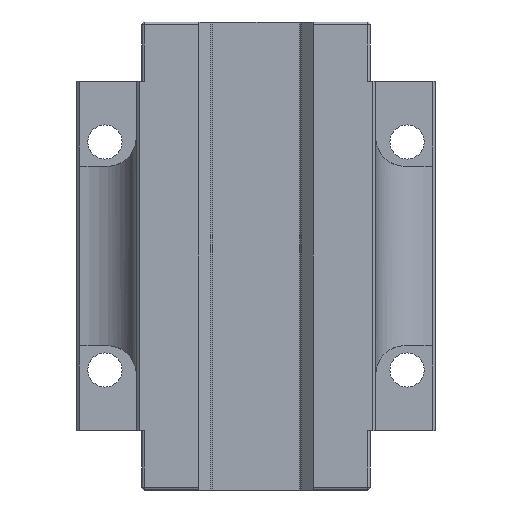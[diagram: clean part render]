
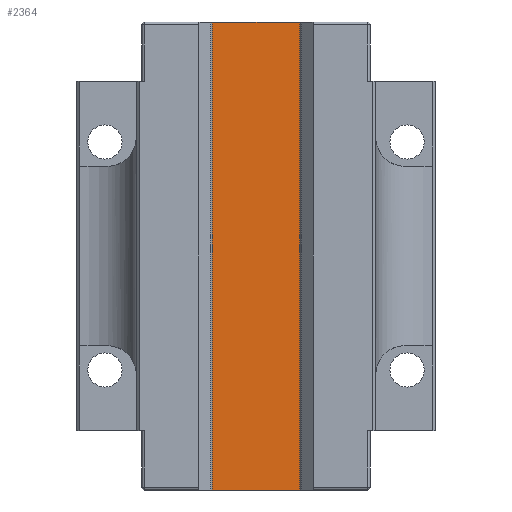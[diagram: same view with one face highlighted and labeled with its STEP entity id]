
A CAD part, front view. The second image highlights one B-rep face of the part: STEP entity #2364.
In plain terms, the highlighted planar face has unit normal (0, -1, 0).
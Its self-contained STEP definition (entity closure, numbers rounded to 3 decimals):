
#51 = DIRECTION ( 'NONE',  ( -1., 0., 0. ) ) ;
#171 = VERTEX_POINT ( 'NONE', #814 ) ;
#291 = CARTESIAN_POINT ( 'NONE',  ( -10., 16.3, -41.05 ) ) ;
#320 = VECTOR ( 'NONE', #51, 1000. ) ;
#352 = EDGE_CURVE ( 'NONE', #356, #2222, #1412, .T. ) ;
#356 = VERTEX_POINT ( 'NONE', #2301 ) ;
#443 = DIRECTION ( 'NONE',  ( 0., 0., -1. ) ) ;
#472 = EDGE_CURVE ( 'NONE', #2208, #356, #928, .T. ) ;
#482 = LINE ( 'NONE', #291, #2317 ) ;
#531 = VECTOR ( 'NONE', #643, 1000. ) ;
#643 = DIRECTION ( 'NONE',  ( 0., 0., 1. ) ) ;
#814 = CARTESIAN_POINT ( 'NONE',  ( 9., 16.3, -41.05 ) ) ;
#928 = LINE ( 'NONE', #1893, #320 ) ;
#954 = EDGE_LOOP ( 'NONE', ( #1046, #2896, #2153, #1164 ) ) ;
#957 = AXIS2_PLACEMENT_3D ( 'NONE', #2097, #1637, #2102 ) ;
#1046 = ORIENTED_EDGE ( 'NONE', *, *, #1990, .F. ) ;
#1164 = ORIENTED_EDGE ( 'NONE', *, *, #352, .T. ) ;
#1354 = EDGE_CURVE ( 'NONE', #171, #2208, #1616, .T. ) ;
#1412 = LINE ( 'NONE', #2099, #1480 ) ;
#1428 = FACE_OUTER_BOUND ( 'NONE', #954, .T. ) ;
#1480 = VECTOR ( 'NONE', #443, 1000. ) ;
#1583 = CARTESIAN_POINT ( 'NONE',  ( -9., 16.3, -41.05 ) ) ;
#1616 = LINE ( 'NONE', #2035, #531 ) ;
#1637 = DIRECTION ( 'NONE',  ( 0., 1., 0. ) ) ;
#1692 = DIRECTION ( 'NONE',  ( -1., 0., 0. ) ) ;
#1893 = CARTESIAN_POINT ( 'NONE',  ( -10., 16.3, 41.05 ) ) ;
#1990 = EDGE_CURVE ( 'NONE', #171, #2222, #482, .T. ) ;
#2035 = CARTESIAN_POINT ( 'NONE',  ( 9., 16.3, 41.05 ) ) ;
#2097 = CARTESIAN_POINT ( 'NONE',  ( -10., 16.3, -41.05 ) ) ;
#2099 = CARTESIAN_POINT ( 'NONE',  ( -9., 16.3, -41.05 ) ) ;
#2102 = DIRECTION ( 'NONE',  ( 0., 0., 1. ) ) ;
#2117 = PLANE ( 'NONE',  #957 ) ;
#2153 = ORIENTED_EDGE ( 'NONE', *, *, #472, .T. ) ;
#2208 = VERTEX_POINT ( 'NONE', #2421 ) ;
#2222 = VERTEX_POINT ( 'NONE', #1583 ) ;
#2301 = CARTESIAN_POINT ( 'NONE',  ( -9., 16.3, 41.05 ) ) ;
#2317 = VECTOR ( 'NONE', #1692, 1000. ) ;
#2364 = ADVANCED_FACE ( 'NONE', ( #1428 ), #2117, .F. ) ;
#2421 = CARTESIAN_POINT ( 'NONE',  ( 9., 16.3, 41.05 ) ) ;
#2896 = ORIENTED_EDGE ( 'NONE', *, *, #1354, .T. ) ;
